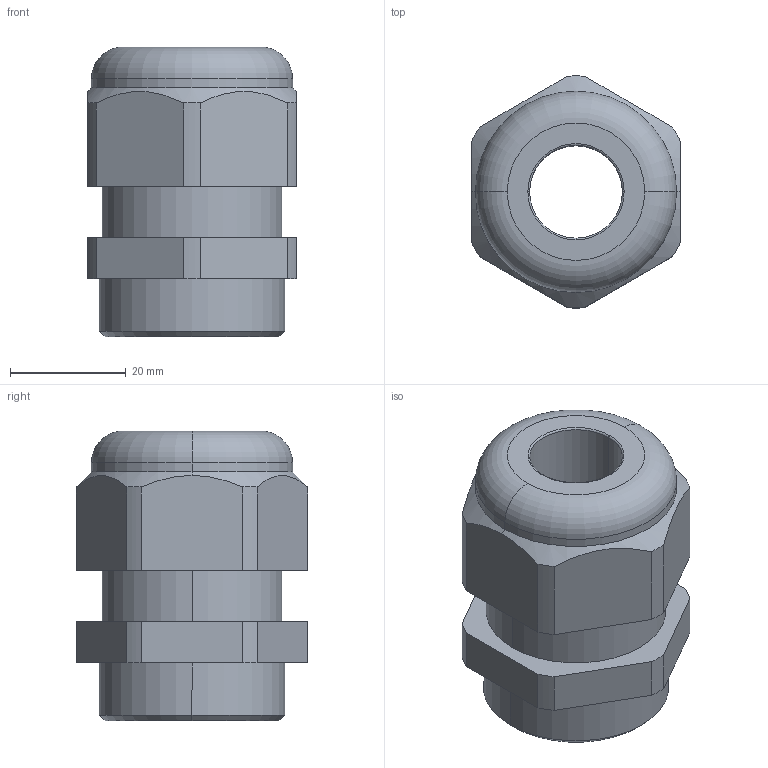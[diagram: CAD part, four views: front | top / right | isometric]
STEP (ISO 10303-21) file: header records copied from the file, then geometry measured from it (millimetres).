
FILE_DESCRIPTION (( 'STEP AP203' ), '1' );
FILE_NAME ('50.632 PA-R.STEP', '2005-09-21T09:10:52', ( ' ' ), ( '' ), 'SwSTEP 2.0', 'SolidWorks 2005143', '' );
FILE_SCHEMA (( 'CONFIG_CONTROL_DESIGN' ));
Length unit declared in the file: millimetre
Products named in the file (1): 50.632 PA-R
Bounding box: 36 x 39.99 x 50 mm (x, y, z)
Volume: 37346.1 mm3; surface area: 10193.4 mm2
Topology: 1 solids, 1 shells, 82 faces, 214 edges, 140 vertices
Faces by surface type: plane 54, cylinder 20, cone 4, torus 4
Entity records: 2657 total; most frequent: CARTESIAN_POINT 525, ORIENTED_EDGE 428, DIRECTION 422, EDGE_CURVE 214, LINE 156, VECTOR 156, VERTEX_POINT 140, AXIS2_PLACEMENT_3D 133
